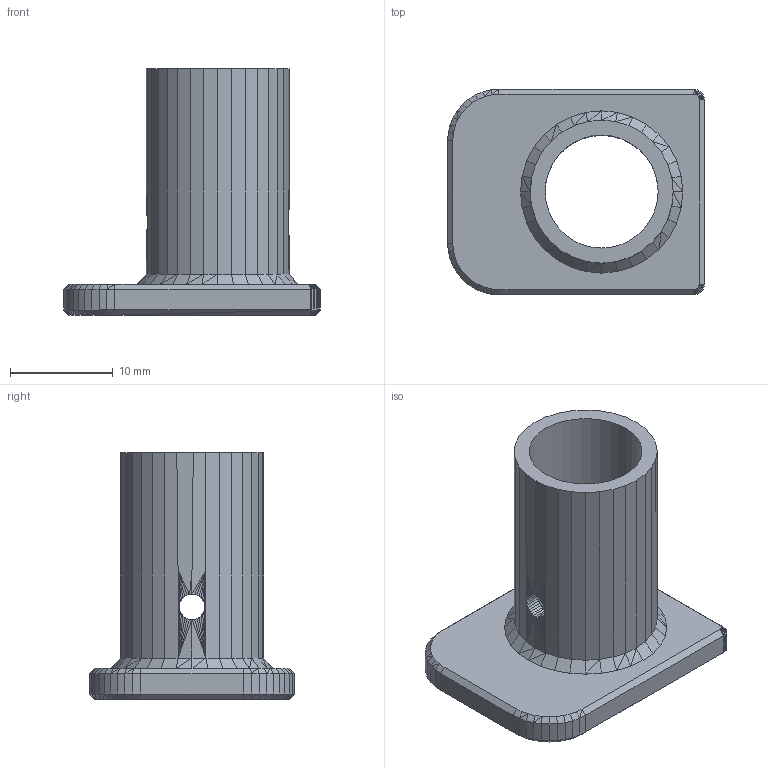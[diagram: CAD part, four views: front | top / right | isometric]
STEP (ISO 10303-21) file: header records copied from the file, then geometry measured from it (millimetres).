
FILE_DESCRIPTION(('HOOPS Exchange Step'),'2;1');
FILE_NAME('/Users/sulf/Library/Containers/com.shapr3d.shapr/Data/tmp/export/temp_export','2026-08-09T09:09:28+02:00',('sulf'),('Shapr3D Limited'),'HOOPS Exchange 2025.7','Shapr3D','Authorized');
FILE_SCHEMA( ('AP242_MANAGED_MODEL_BASED_3D_ENGINEERING_MIM_LF {1 0 10303 442 1 1 4}') );
Length unit declared in the file: millimetre
Products named in the file (2): A1 Plotter Adapter S.step; root
Assembly tree (1 placements, depth 2):
  root
    A1 Plotter Adapter S.step
Bounding box: 25.01 x 20.01 x 24 mm (x, y, z)
Volume: 2172.1 mm3; surface area: 2670.6 mm2
Topology: 1 solids, 1 shells, 423 faces, 849 edges, 426 vertices
Faces by surface type: plane 421, cone 1, cylinder 1
Full cylindrical faces by diameter (mm): 11 x1
Entity records: 10333 total; most frequent: DIRECTION 1780, CARTESIAN_POINT 1702, ORIENTED_EDGE 1698, EDGE_CURVE 849, VECTOR 772, LINE 772, AXIS2_PLACEMENT_3D 504, EDGE_LOOP 427
